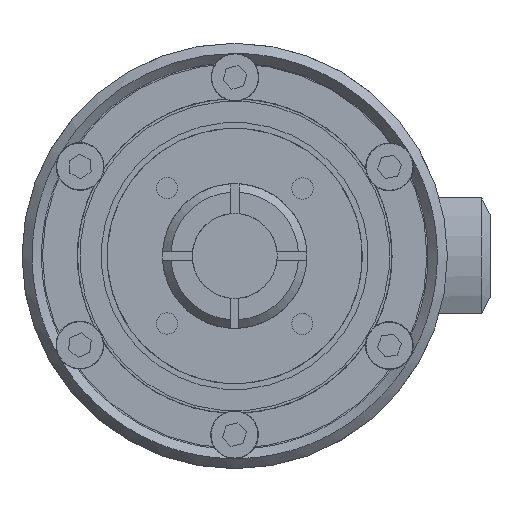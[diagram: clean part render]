
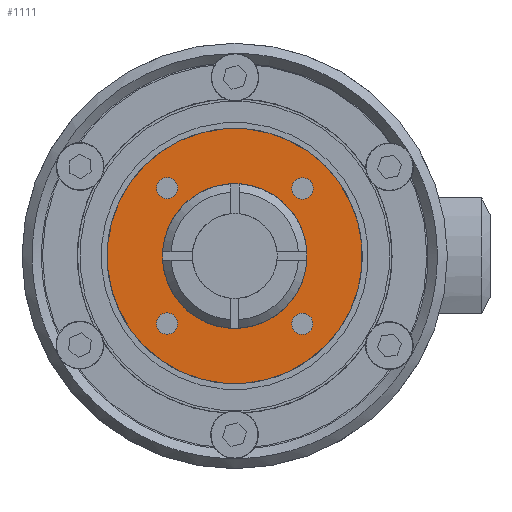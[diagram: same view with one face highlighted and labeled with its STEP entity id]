
A CAD part, left-side view. The second image highlights one B-rep face of the part: STEP entity #1111.
In plain terms, the highlighted planar face has unit normal (-1, 0, 0) as drawn and (0, -1, 0) by its records, which use the part's own axes.
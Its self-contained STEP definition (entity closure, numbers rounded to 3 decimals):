
#1111 = ADVANCED_FACE( '', ( #2066, #2067, #2068, #2069, #2070, #2071 ), #2072, .F. );
#2066 = FACE_OUTER_BOUND( '', #2845, .T. );
#2067 = FACE_BOUND( '', #2846, .T. );
#2068 = FACE_BOUND( '', #2847, .T. );
#2069 = FACE_BOUND( '', #2848, .T. );
#2070 = FACE_BOUND( '', #2849, .T. );
#2071 = FACE_BOUND( '', #2850, .T. );
#2072 = PLANE( '', #2851 );
#2845 = EDGE_LOOP( '', ( #4612 ) );
#2846 = EDGE_LOOP( '', ( #4613 ) );
#2847 = EDGE_LOOP( '', ( #4614 ) );
#2848 = EDGE_LOOP( '', ( #4615 ) );
#2849 = EDGE_LOOP( '', ( #4616 ) );
#2850 = EDGE_LOOP( '', ( #4617 ) );
#2851 = AXIS2_PLACEMENT_3D( '', #4618, #4619, #4620 );
#4612 = ORIENTED_EDGE( '', *, *, #5402, .T. );
#4613 = ORIENTED_EDGE( '', *, *, #5412, .F. );
#4614 = ORIENTED_EDGE( '', *, *, #5403, .F. );
#4615 = ORIENTED_EDGE( '', *, *, #5410, .F. );
#4616 = ORIENTED_EDGE( '', *, *, #5409, .F. );
#4617 = ORIENTED_EDGE( '', *, *, #5411, .F. );
#4618 = CARTESIAN_POINT( '', ( 0., 0., 15. ) );
#4619 = DIRECTION( '', ( 0., 1., 0. ) );
#4620 = DIRECTION( '', ( 1., 0., 0. ) );
#5402 = EDGE_CURVE( '', #6382, #6382, #6383, .T. );
#5403 = EDGE_CURVE( '', #6384, #6384, #6385, .T. );
#5409 = EDGE_CURVE( '', #6396, #6396, #6397, .T. );
#5410 = EDGE_CURVE( '', #6398, #6398, #6399, .T. );
#5411 = EDGE_CURVE( '', #6400, #6400, #6401, .T. );
#5412 = EDGE_CURVE( '', #6402, #6402, #6403, .T. );
#6382 = VERTEX_POINT( '', #7694 );
#6383 = CIRCLE( '', #7695, 15. );
#6384 = VERTEX_POINT( '', #7696 );
#6385 = CIRCLE( '', #7697, 1.25 );
#6396 = VERTEX_POINT( '', #7708 );
#6397 = CIRCLE( '', #7709, 1.25 );
#6398 = VERTEX_POINT( '', #7710 );
#6399 = CIRCLE( '', #7711, 1.25 );
#6400 = VERTEX_POINT( '', #7712 );
#6401 = CIRCLE( '', #7713, 8.5 );
#6402 = VERTEX_POINT( '', #7714 );
#6403 = CIRCLE( '', #7715, 1.25 );
#7694 = CARTESIAN_POINT( '', ( 0., 0., -15. ) );
#7695 = AXIS2_PLACEMENT_3D( '', #8626, #8627, #8628 );
#7696 = CARTESIAN_POINT( '', ( -1.25, 0., -11.25 ) );
#7697 = AXIS2_PLACEMENT_3D( '', #8629, #8630, #8631 );
#7708 = CARTESIAN_POINT( '', ( 1.25, 0., 11.25 ) );
#7709 = AXIS2_PLACEMENT_3D( '', #8647, #8648, #8649 );
#7710 = CARTESIAN_POINT( '', ( 11.25, 0., -1.25 ) );
#7711 = AXIS2_PLACEMENT_3D( '', #8650, #8651, #8652 );
#7712 = CARTESIAN_POINT( '', ( 0., 0., -8.5 ) );
#7713 = AXIS2_PLACEMENT_3D( '', #8653, #8654, #8655 );
#7714 = CARTESIAN_POINT( '', ( -11.25, 0., 1.25 ) );
#7715 = AXIS2_PLACEMENT_3D( '', #8656, #8657, #8658 );
#8626 = CARTESIAN_POINT( '', ( 0., 0., 0. ) );
#8627 = DIRECTION( '', ( 0., -1., 0. ) );
#8628 = DIRECTION( '', ( 0., 0., -1. ) );
#8629 = CARTESIAN_POINT( '', ( 0., 0., -11.25 ) );
#8630 = DIRECTION( '', ( 0., -1., 0. ) );
#8631 = DIRECTION( '', ( -1., 0., 0. ) );
#8647 = CARTESIAN_POINT( '', ( 0., 0., 11.25 ) );
#8648 = DIRECTION( '', ( 0., -1., 0. ) );
#8649 = DIRECTION( '', ( 1., 0., 0. ) );
#8650 = CARTESIAN_POINT( '', ( 11.25, 0., 0. ) );
#8651 = DIRECTION( '', ( 0., -1., 0. ) );
#8652 = DIRECTION( '', ( 0., 0., -1. ) );
#8653 = CARTESIAN_POINT( '', ( 0., 0., 0. ) );
#8654 = DIRECTION( '', ( 0., -1., 0. ) );
#8655 = DIRECTION( '', ( 0., 0., -1. ) );
#8656 = CARTESIAN_POINT( '', ( -11.25, 0., 0. ) );
#8657 = DIRECTION( '', ( 0., -1., 0. ) );
#8658 = DIRECTION( '', ( 0., 0., 1. ) );
